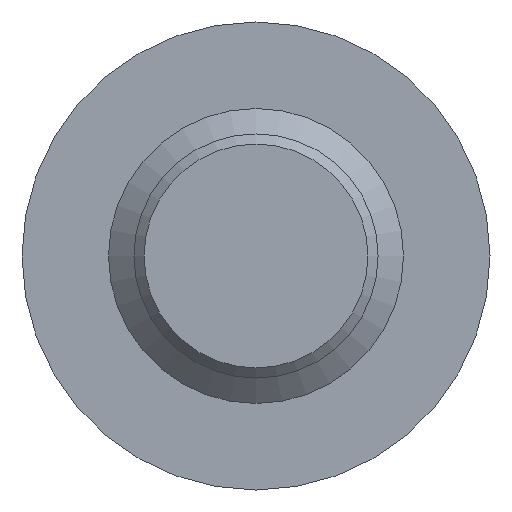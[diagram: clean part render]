
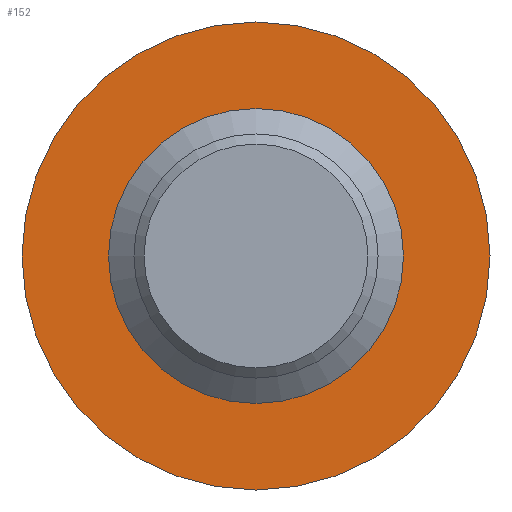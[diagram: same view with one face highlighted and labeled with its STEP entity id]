
A CAD part, front view. The second image highlights one B-rep face of the part: STEP entity #152.
In plain terms, the highlighted planar face has unit normal (0, -1, 0).
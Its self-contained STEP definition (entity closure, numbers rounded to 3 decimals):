
#15=FACE_BOUND('',#57,.T.);
#21=PLANE('',#195);
#45=FACE_OUTER_BOUND('',#56,.T.);
#56=EDGE_LOOP('',(#129));
#57=EDGE_LOOP('',(#130));
#67=CIRCLE('',#186,11.5);
#72=CIRCLE('',#196,6.95);
#79=VERTEX_POINT('',#270);
#84=VERTEX_POINT('',#288);
#93=EDGE_CURVE('',#79,#79,#67,.T.);
#100=EDGE_CURVE('',#84,#84,#72,.T.);
#129=ORIENTED_EDGE('',*,*,#93,.F.);
#130=ORIENTED_EDGE('',*,*,#100,.F.);
#152=ADVANCED_FACE('',(#45,#15),#21,.F.);
#186=AXIS2_PLACEMENT_3D('',#272,#219,#220);
#195=AXIS2_PLACEMENT_3D('',#287,#239,#240);
#196=AXIS2_PLACEMENT_3D('',#289,#241,#242);
#219=DIRECTION('center_axis',(0.,1.,0.));
#220=DIRECTION('ref_axis',(1.,0.,0.));
#239=DIRECTION('center_axis',(0.,1.,0.));
#240=DIRECTION('ref_axis',(0.,0.,1.));
#241=DIRECTION('center_axis',(0.,-1.,0.));
#242=DIRECTION('ref_axis',(1.,0.,0.));
#270=CARTESIAN_POINT('',(-11.5,35.,0.));
#272=CARTESIAN_POINT('Origin',(0.,35.,0.));
#287=CARTESIAN_POINT('Origin',(0.,35.,0.));
#288=CARTESIAN_POINT('',(-6.95,35.,0.));
#289=CARTESIAN_POINT('Origin',(0.,35.,0.));
